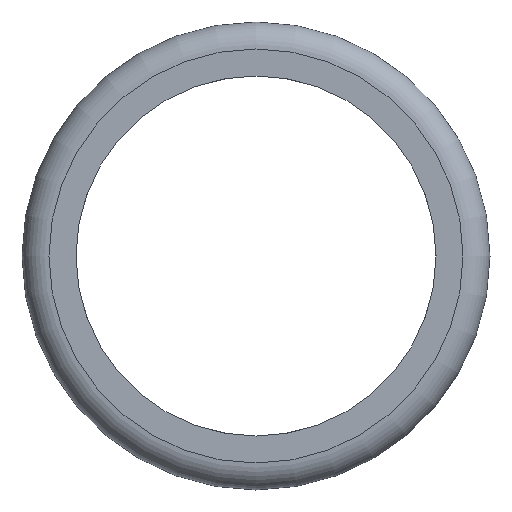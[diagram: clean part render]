
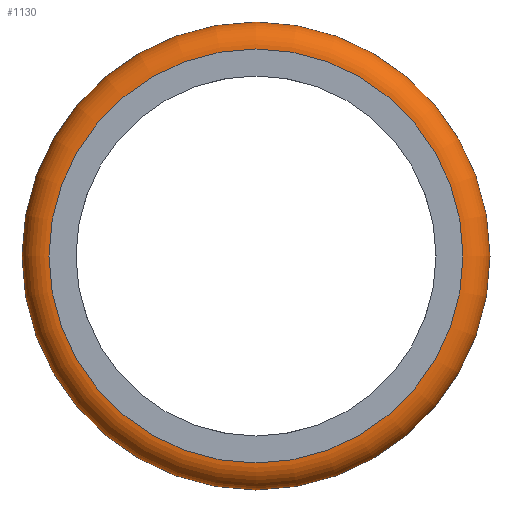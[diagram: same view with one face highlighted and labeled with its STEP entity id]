
A CAD part, front view. The second image highlights one B-rep face of the part: STEP entity #1130.
In plain terms, the highlighted toroidal (fillet/blend) face has major radius 11.5 mm and minor radius 1.5 mm.
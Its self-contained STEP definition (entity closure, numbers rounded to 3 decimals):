
#252=FACE_OUTER_BOUND('',#312,.T.);
#312=EDGE_LOOP('',(#1041,#1042,#1043,#1044,#1045));
#362=CIRCLE('',#1249,11.5);
#363=CIRCLE('',#1250,1.5);
#364=CIRCLE('',#1251,13.);
#365=CIRCLE('',#1252,13.);
#529=VERTEX_POINT('',#2444);
#530=VERTEX_POINT('',#2446);
#531=VERTEX_POINT('',#2448);
#701=EDGE_CURVE('',#529,#529,#362,.T.);
#702=EDGE_CURVE('',#529,#530,#363,.T.);
#703=EDGE_CURVE('',#530,#531,#364,.T.);
#704=EDGE_CURVE('',#531,#530,#365,.T.);
#1041=ORIENTED_EDGE('',*,*,#701,.T.);
#1042=ORIENTED_EDGE('',*,*,#702,.T.);
#1043=ORIENTED_EDGE('',*,*,#703,.T.);
#1044=ORIENTED_EDGE('',*,*,#704,.T.);
#1045=ORIENTED_EDGE('',*,*,#702,.F.);
#1073=TOROIDAL_SURFACE('',#1248,11.5,1.5);
#1130=ADVANCED_FACE('',(#252),#1073,.T.);
#1248=AXIS2_PLACEMENT_3D('',#2443,#1521,#1522);
#1249=AXIS2_PLACEMENT_3D('',#2445,#1523,#1524);
#1250=AXIS2_PLACEMENT_3D('',#2447,#1525,#1526);
#1251=AXIS2_PLACEMENT_3D('',#2449,#1527,#1528);
#1252=AXIS2_PLACEMENT_3D('',#2450,#1529,#1530);
#1521=DIRECTION('center_axis',(0.,-1.,0.));
#1522=DIRECTION('ref_axis',(0.,0.,-1.));
#1523=DIRECTION('center_axis',(0.,1.,0.));
#1524=DIRECTION('ref_axis',(1.,0.,0.));
#1525=DIRECTION('center_axis',(-1.,0.,0.));
#1526=DIRECTION('ref_axis',(0.,0.,1.));
#1527=DIRECTION('center_axis',(0.,-1.,0.));
#1528=DIRECTION('ref_axis',(1.,0.,0.));
#1529=DIRECTION('center_axis',(0.,-1.,0.));
#1530=DIRECTION('ref_axis',(1.,0.,0.));
#2443=CARTESIAN_POINT('Origin',(0.,-0.5,0.));
#2444=CARTESIAN_POINT('',(0.,-2.,11.5));
#2445=CARTESIAN_POINT('Origin',(0.,-2.,0.));
#2446=CARTESIAN_POINT('',(0.,-0.5,13.));
#2447=CARTESIAN_POINT('Origin',(0.,-0.5,11.5));
#2448=CARTESIAN_POINT('',(-13.,-0.5,0.));
#2449=CARTESIAN_POINT('Origin',(0.,-0.5,0.));
#2450=CARTESIAN_POINT('Origin',(0.,-0.5,0.));
